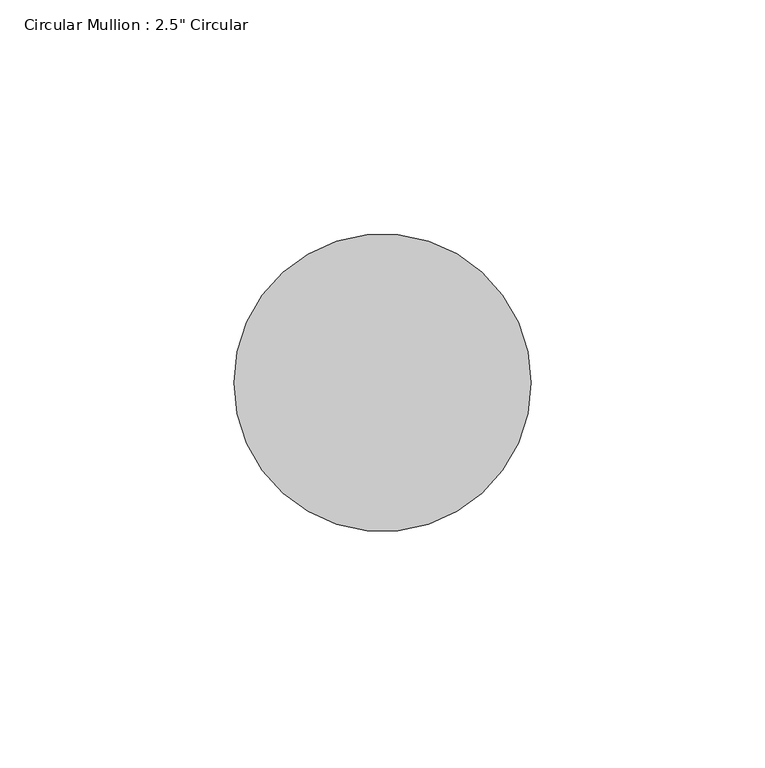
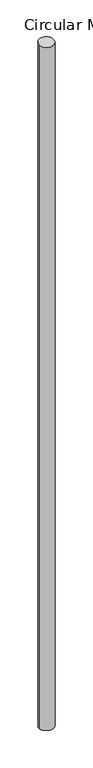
"""IFC4 building model written with IfcOpenShell, lengths in millimetres: member geometry."""

from ifc_helpers import new_model, si_unit, frame, origin, place, context, project, spatial, ellipse_curve, source, transform, mapped, element, save
from ifc_brep_helpers import plane_surface, cylinder_surface, advanced_brep


def member_7f8e0041(model_context):
    return source(origin(), model_context, "Body", "AdvancedBrep", [
        advanced_brep(
        [(-63.5, 0.0, -1.9637206), (0.0, 0.0, 0.0), (0.0, 0.0, -3107.4167673), (-63.5, 0.0, -3106.1495706)],
        [
            (0, 1, ellipse_curve(frame((-31.75, 0.0, -0.9818603), z_axis=(0.030792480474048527, 0.08710201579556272, -0.9957233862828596), x_axis=(0.3318816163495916, 0.938786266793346, 0.0923847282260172)), 31.8863657, 31.75)),
            (1, 2),
            (2, 3, ellipse_curve(frame((-31.75, 0.0, -3106.783169), z_axis=(0.019916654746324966, 0.05939703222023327, 0.9980357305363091), x_axis=(-0.317292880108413, -0.9462560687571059, 0.0626472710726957)), 31.8124883, 31.75)),
            (3, 0),
            (1, 0, ellipse_curve(frame((-31.75, 0.0, -0.9818603), z_axis=(0.030792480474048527, 0.08710201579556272, -0.9957233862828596), x_axis=(0.3318816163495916, 0.938786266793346, 0.0923847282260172)), 31.8863657, 31.75)),
            (3, 2, ellipse_curve(frame((-31.75, 0.0, -3106.783169), z_axis=(0.019916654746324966, 0.05939703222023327, 0.9980357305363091), x_axis=(-0.317292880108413, -0.9462560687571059, 0.0626472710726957)), 31.8124883, 31.75)),
        ],
        [
            cylinder_surface(frame((-31.75, 0.0, 0.0), z_axis=(0.0, 0.0, 1.0), x_axis=(1.0, 0.0, 0.0)), 31.75),
            plane_surface(frame((287.371029, -101.5919863, 0.0), z_axis=(-0.030792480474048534, -0.08710201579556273, 0.9957233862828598), x_axis=(-0.33188161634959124, -0.9387862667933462, -0.09238472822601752))),
            plane_surface(frame((288.9864971, -96.9012099, -3107.4167673), z_axis=(-0.01991665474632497, -0.059397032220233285, -0.9980357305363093), x_axis=(-0.31729288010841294, -0.9462560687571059, 0.06264727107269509))),
        ],
        [
            (0, [[1, 2, 3, 4]]),
            (0, [[5, -4, 6, -2]]),
            (1, [[-1, -5]]),
            (2, [[-6, -3]]),
        ],
    ),
    ])


if __name__ == "__main__":
    model = new_model("IFC4")
    model_context = context("Model", 3, world=origin())
    ifc_project = project(units=[si_unit("LENGTHUNIT", "METRE", prefix="MILLI")], contexts=[model_context])
    site = spatial("IfcSite", under=ifc_project)
    building = spatial("IfcBuilding", under=site)
    placement = place(None, origin())
    member_shape = member_7f8e0041(model_context)
    element("IfcMember", 1, ObjectType="Circular Mullion : 2.5\" Circular", at=placement, inside=building, context=model_context, shape_type="MappedRepresentation", body=[
        mapped(member_shape, transform((0.0, 0.0, 0.0), x_axis=(1.0, 0.0, 0.0), y_axis=(0.0, 1.0, 0.0), z_axis=(0.0, 0.0, 1.0))),
    ])
    save(model, "model.ifc")
